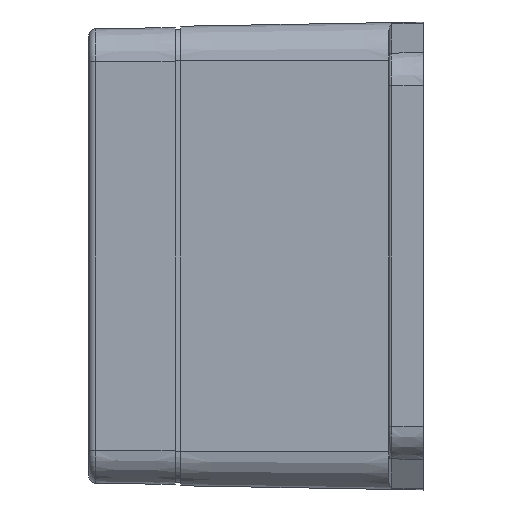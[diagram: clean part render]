
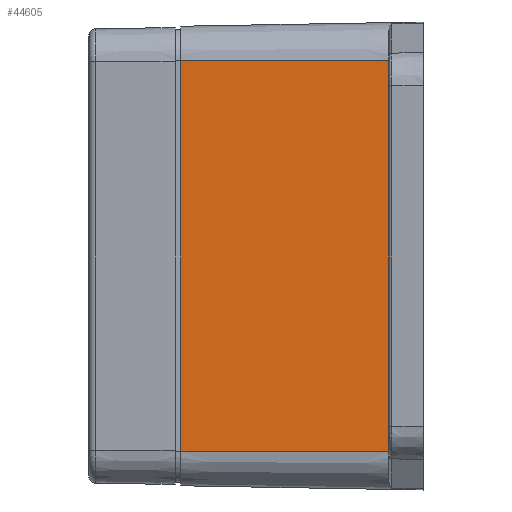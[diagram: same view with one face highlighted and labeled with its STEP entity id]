
A CAD part, left-side view. The second image highlights one B-rep face of the part: STEP entity #44605.
In plain terms, the highlighted planar face has unit normal (-1, 0.018, 0).
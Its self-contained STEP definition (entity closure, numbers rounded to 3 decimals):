
#1669 = VERTEX_POINT ( 'NONE', #17469 ) ;
#3215 = ORIENTED_EDGE ( 'NONE', *, *, #35425, .F. ) ;
#5432 = LINE ( 'NONE', #5675, #30270 ) ;
#5512 = VECTOR ( 'NONE', #42202, 1000. ) ;
#5675 = CARTESIAN_POINT ( 'NONE',  ( -60.05, 0., -34.15 ) ) ;
#5940 = DIRECTION ( 'NONE',  ( -0.017, -1., 0. ) ) ;
#6259 = VECTOR ( 'NONE', #29873, 1000. ) ;
#6662 = FACE_OUTER_BOUND ( 'NONE', #41018, .T. ) ;
#6835 = EDGE_CURVE ( 'NONE', #40614, #1669, #38514, .T. ) ;
#7684 = CARTESIAN_POINT ( 'NONE',  ( -60.067, -1., 34.15 ) ) ;
#12354 = LINE ( 'NONE', #34506, #5512 ) ;
#13001 = VERTEX_POINT ( 'NONE', #7684 ) ;
#15666 = CARTESIAN_POINT ( 'NONE',  ( -60.05, 0., 34.15 ) ) ;
#15970 = EDGE_CURVE ( 'NONE', #13001, #44425, #12354, .T. ) ;
#16798 = VECTOR ( 'NONE', #37590, 1000. ) ;
#17469 = CARTESIAN_POINT ( 'NONE',  ( -60.703, -37.4, -34.15 ) ) ;
#17715 = DIRECTION ( 'NONE',  ( -1., 0.017, 0. ) ) ;
#18326 = LINE ( 'NONE', #15666, #6259 ) ;
#18974 = ORIENTED_EDGE ( 'NONE', *, *, #45395, .T. ) ;
#24690 = PLANE ( 'NONE',  #31137 ) ;
#26134 = CARTESIAN_POINT ( 'NONE',  ( -60.703, -37.4, 34.15 ) ) ;
#28871 = ORIENTED_EDGE ( 'NONE', *, *, #15970, .T. ) ;
#29873 = DIRECTION ( 'NONE',  ( 0.017, 1., 0. ) ) ;
#30270 = VECTOR ( 'NONE', #45650, 1000. ) ;
#30363 = CARTESIAN_POINT ( 'NONE',  ( -60.703, -37.4, 34.15 ) ) ;
#31137 = AXIS2_PLACEMENT_3D ( 'NONE', #35312, #17715, #5940 ) ;
#34506 = CARTESIAN_POINT ( 'NONE',  ( -60.067, -1., 34.15 ) ) ;
#34637 = CARTESIAN_POINT ( 'NONE',  ( -60.067, -1., -34.15 ) ) ;
#35312 = CARTESIAN_POINT ( 'NONE',  ( -60.05, 0., 34.15 ) ) ;
#35425 = EDGE_CURVE ( 'NONE', #1669, #44425, #5432, .T. ) ;
#37590 = DIRECTION ( 'NONE',  ( 0., 0., -1. ) ) ;
#38514 = LINE ( 'NONE', #30363, #16798 ) ;
#40614 = VERTEX_POINT ( 'NONE', #26134 ) ;
#40686 = ORIENTED_EDGE ( 'NONE', *, *, #6835, .F. ) ;
#41018 = EDGE_LOOP ( 'NONE', ( #18974, #28871, #3215, #40686 ) ) ;
#42202 = DIRECTION ( 'NONE',  ( 0., 0., -1. ) ) ;
#44425 = VERTEX_POINT ( 'NONE', #34637 ) ;
#44605 = ADVANCED_FACE ( 'NONE', ( #6662 ), #24690, .T. ) ;
#45395 = EDGE_CURVE ( 'NONE', #40614, #13001, #18326, .T. ) ;
#45650 = DIRECTION ( 'NONE',  ( 0.017, 1., 0. ) ) ;
